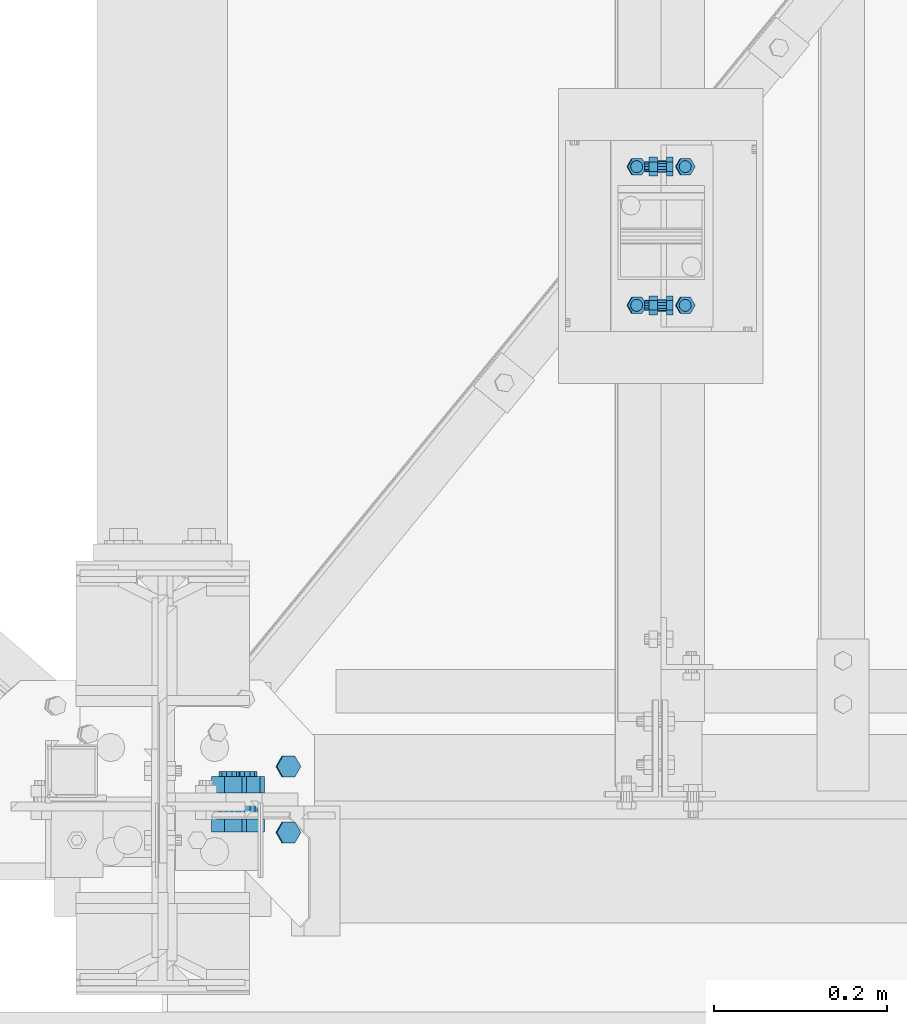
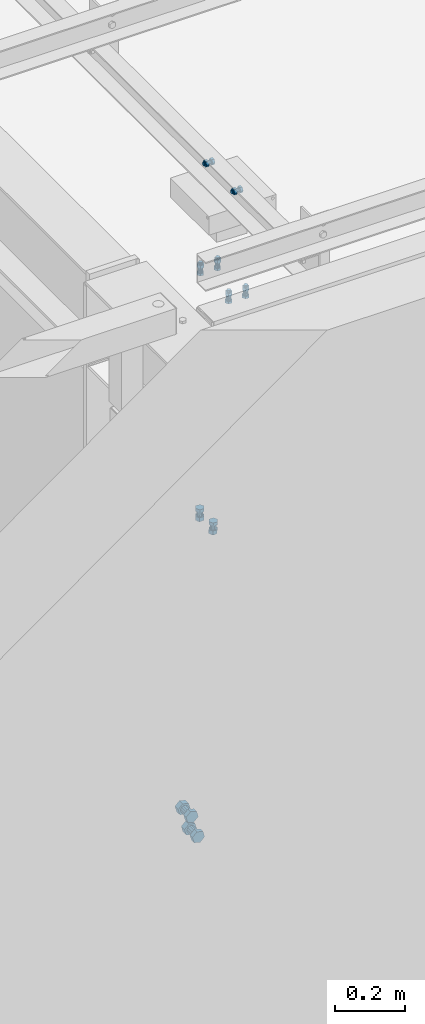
# One storey, part 300 of 3134: 5 mechanical fasteners, 4 elements without a shape of their own.
"""IFC2X3 building model written with IfcOpenShell, lengths in millimetres."""

from ifc_helpers import new_model, si_unit, frame, origin_with_axes, place, context, subcontext, project, spatial, faceted_brep, source, transform, mapped, material, type_object, element, aggregate, save


model = new_model("IFC2X3")

# Units and contexts
model_context = context("Model", 3, precision=1e-05, world=origin_with_axes())
body_context = subcontext(model_context, "Body", "Model", "MODEL_VIEW")
ifc_project = project(units=[si_unit("LENGTHUNIT", "METRE", prefix="MILLI"), si_unit("AREAUNIT", "SQUARE_METRE"), si_unit("VOLUMEUNIT", "CUBIC_METRE"), si_unit("MASSUNIT", "GRAM", prefix="KILO"), si_unit("TIMEUNIT", "SECOND"), si_unit("PLANEANGLEUNIT", "RADIAN"), si_unit("SOLIDANGLEUNIT", "STERADIAN"), si_unit("THERMODYNAMICTEMPERATUREUNIT", "DEGREE_CELSIUS"), si_unit("LUMINOUSINTENSITYUNIT", "LUMEN")], contexts=[model_context])

# Site, building, storey
site_placement = place(None, origin_with_axes())
site = spatial("IfcSite", under=ifc_project, at=site_placement, CompositionType="ELEMENT")
building_placement = place(site_placement, origin_with_axes())
building = spatial("IfcBuilding", under=site, at=building_placement, Name="Undefined", CompositionType="ELEMENT")
storey_placement = place(building_placement, origin_with_axes())
storey = spatial("IfcBuildingStorey", under=building, at=storey_placement, Name="Undefined", CompositionType="ELEMENT", Elevation=0.0)

# Assembly, mechanical fastener
assembly_1_placement = place(storey_placement, origin_with_axes())
assembly_1 = element("IfcElementAssembly", 1, at=assembly_1_placement, inside=storey, AssemblyPlace="NOTDEFINED", PredefinedType="RIGID_FRAME")
ifc_material = material(Name="8.8")
mechanical_fastener_type = type_object("IfcMechanicalFastenerType", Name="Bolt assembly")
shared_shape_1 = source(origin_with_axes(), body_context, "Body", "Brep", [
    faceted_brep([(10.9696551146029, -14.0, 0.0), (5.48482755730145, -14.0, 9.5), (-5.48482755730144, -14.0, 9.5), (-10.9696551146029, -14.0, 1.34339530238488e-15), (-5.48482755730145, -14.0, -9.5), (5.48482755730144, -14.0, -9.50000000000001), (5.48482755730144, -6.0, -9.50000000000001), (-5.48482755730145, -6.0, -9.5), (-10.9696551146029, -6.0, 1.34339530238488e-15), (-5.48482755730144, -6.0, 9.5), (5.48482755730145, -6.0, 9.5), (10.9696551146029, -6.0, 0.0), (6.0, -6.0, 0.0), (5.19615242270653, -6.0, 3.00000000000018), (2.99999999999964, -6.0, 5.19615242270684), (-6.21801588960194e-13, -6.0, 6.0), (-3.00000000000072, -6.0, 5.19615242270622), (-5.19615242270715, -6.0, 2.9999999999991), (-6.0, -6.0, -1.24360317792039e-12), (-5.19615242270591, -6.0, -3.00000000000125), (-2.99999999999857, -6.0, -5.19615242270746), (1.85874342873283e-12, -6.0, -6.0), (3.00000000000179, -6.0, -5.1961524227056), (5.19615242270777, -6.0, -2.99999999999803), (5.19615242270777, 19.0, -2.99999999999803), (3.00000000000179, 19.0, -5.1961524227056), (1.85874342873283e-12, 19.0, -6.0), (-2.99999999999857, 19.0, -5.19615242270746), (-5.19615242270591, 19.0, -3.00000000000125), (-6.0, 19.0, -1.24360317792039e-12), (-5.19615242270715, 19.0, 2.9999999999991), (-3.00000000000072, 19.0, 5.19615242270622), (-6.21801588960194e-13, 19.0, 6.0), (2.99999999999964, 19.0, 5.19615242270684), (5.19615242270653, 19.0, 3.00000000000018), (6.0, 19.0, 0.0), (10.9696551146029, 4.00000000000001, 0.0), (5.48482755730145, 4.00000000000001, 9.5), (-5.48482755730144, 4.00000000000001, 9.5), (-10.9696551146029, 4.00000000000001, 1.34339530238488e-15), (-5.48482755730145, 4.00000000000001, -9.5), (5.48482755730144, 4.00000000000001, -9.50000000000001), (5.48482755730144, 14.0, -9.50000000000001), (-5.48482755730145, 14.0, -9.5), (-10.9696551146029, 14.0, 1.34339530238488e-15), (-5.48482755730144, 14.0, 9.5), (5.48482755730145, 14.0, 9.5), (10.9696551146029, 14.0, 0.0)], [[[0, 1, 2, 3, 4, 5]], [[6, 7, 8, 9, 10, 11]], [[0, 11, 10, 1]], [[1, 10, 9, 2]], [[2, 9, 8, 3]], [[3, 8, 7, 4]], [[4, 7, 6, 5]], [[5, 6, 11, 0]], [[12, 13, 14, 15, 16, 17, 18, 19, 20, 21, 22, 23]], [[24, 25, 26, 27, 28, 29, 30, 31, 32, 33, 34, 35]], [[12, 35, 34, 13]], [[13, 34, 33, 14]], [[14, 33, 32, 15]], [[15, 32, 31, 16]], [[16, 31, 30, 17]], [[17, 30, 29, 18]], [[18, 29, 28, 19]], [[19, 28, 27, 20]], [[20, 27, 26, 21]], [[21, 26, 25, 22]], [[22, 25, 24, 23]], [[23, 24, 35, 12]], [[36, 37, 38, 39, 40, 41]], [[42, 43, 44, 45, 46, 47]], [[36, 47, 46, 37]], [[37, 46, 45, 38]], [[38, 45, 44, 39]], [[39, 44, 43, 40]], [[40, 43, 42, 41]], [[41, 42, 47, 36]]]),
    faceted_brep([(7.0, -0.1, 0.0), (6.06217782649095, -0.1, 3.50000000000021), (3.49999999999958, -0.1, 6.06217782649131), (-7.25435187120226e-13, -0.1, 7.0), (-3.50000000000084, -0.1, 6.06217782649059), (-6.06217782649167, -0.1, 3.49999999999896), (-7.0, -0.1, -1.45087037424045e-12), (-6.06217782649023, -0.1, -3.50000000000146), (-3.49999999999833, -0.1, -6.06217782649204), (2.1685340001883e-12, -0.1, -7.0), (3.50000000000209, -0.1, -6.06217782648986), (6.0621778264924, -0.1, -3.4999999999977), (6.0621778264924, 4.00000000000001, -3.4999999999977), (3.50000000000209, 4.00000000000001, -6.06217782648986), (2.1685340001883e-12, 4.00000000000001, -7.0), (-3.49999999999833, 4.00000000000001, -6.06217782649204), (-6.06217782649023, 4.00000000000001, -3.50000000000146), (-7.0, 4.00000000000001, -1.45087037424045e-12), (-6.06217782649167, 4.00000000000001, 3.49999999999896), (-3.50000000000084, 4.00000000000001, 6.06217782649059), (-7.25435187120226e-13, 4.00000000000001, 7.0), (3.49999999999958, 4.00000000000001, 6.06217782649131), (6.06217782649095, 4.00000000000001, 3.50000000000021), (7.0, 4.00000000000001, 0.0), (7.0, -5.9, 0.0), (6.06217782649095, -5.9, 3.50000000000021), (3.49999999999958, -5.9, 6.06217782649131), (-7.25435187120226e-13, -5.9, 7.0), (-3.50000000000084, -5.9, 6.06217782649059), (-6.06217782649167, -5.9, 3.49999999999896), (-7.0, -5.9, -1.45087037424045e-12), (-6.06217782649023, -5.9, -3.50000000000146), (-3.49999999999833, -5.9, -6.06217782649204), (2.1685340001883e-12, -5.9, -7.0), (3.50000000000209, -5.9, -6.06217782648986), (6.0621778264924, -5.9, -3.4999999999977), (6.0621778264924, 0.0999999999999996, -3.4999999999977), (3.50000000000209, 0.0999999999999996, -6.06217782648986), (2.1685340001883e-12, 0.0999999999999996, -7.0), (-3.49999999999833, 0.0999999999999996, -6.06217782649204), (-6.06217782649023, 0.0999999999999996, -3.50000000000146), (-7.0, 0.0999999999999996, -1.45087037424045e-12), (-6.06217782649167, 0.0999999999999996, 3.49999999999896), (-3.50000000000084, 0.0999999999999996, 6.06217782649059), (-7.25435187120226e-13, 0.0999999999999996, 7.0), (3.49999999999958, 0.0999999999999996, 6.06217782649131), (6.06217782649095, 0.0999999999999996, 3.50000000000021), (7.0, 0.0999999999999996, 0.0)], [[[0, 1, 2, 3, 4, 5, 6, 7, 8, 9, 10, 11]], [[12, 13, 14, 15, 16, 17, 18, 19, 20, 21, 22, 23]], [[0, 23, 22, 1]], [[1, 22, 21, 2]], [[2, 21, 20, 3]], [[3, 20, 19, 4]], [[4, 19, 18, 5]], [[5, 18, 17, 6]], [[6, 17, 16, 7]], [[7, 16, 15, 8]], [[8, 15, 14, 9]], [[9, 14, 13, 10]], [[10, 13, 12, 11]], [[11, 12, 23, 0]], [[24, 25, 26, 27, 28, 29, 30, 31, 32, 33, 34, 35]], [[36, 37, 38, 39, 40, 41, 42, 43, 44, 45, 46, 47]], [[24, 47, 46, 25]], [[25, 46, 45, 26]], [[26, 45, 44, 27]], [[27, 44, 43, 28]], [[28, 43, 42, 29]], [[29, 42, 41, 30]], [[30, 41, 40, 31]], [[31, 40, 39, 32]], [[32, 39, 38, 33]], [[33, 38, 37, 34]], [[34, 37, 36, 35]], [[35, 36, 47, 24]]]),
])
mechanical_fastener_1_placement = place(assembly_1_placement, frame((68125.0, 570.0, 5785.0), z_axis=(0.0, 0.0, 1.0), x_axis=(0.0, 1.0, 0.0)))
mechanical_fastener_1 = element("IfcMechanicalFastener", 2, at=mechanical_fastener_1_placement, type_object=mechanical_fastener_type, material=ifc_material, Name="Bolt assembly", NominalDiameter=12.0, NominalLength=25.0, context=body_context, shape_type="MappedRepresentation", body=[
    mapped(shared_shape_1, transform((0.0, 0.0, 0.0))),
    mapped(shared_shape_1, transform((160.0, 0.0, 0.0))),
])
aggregate(assembly_1, [mechanical_fastener_1])

assembly_2_placement = place(storey_placement, origin_with_axes())
assembly_2 = element("IfcElementAssembly", 3, at=assembly_2_placement, inside=storey, Name="IPE500", AssemblyPlace="NOTDEFINED", PredefinedType="RIGID_FRAME")
shared_shape_2 = source(origin_with_axes(), body_context, "Body", "Brep", [
    faceted_brep([(13.856406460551, -23.1999997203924, 0.0), (6.92820323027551, -23.1999997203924, 12.0), (-6.92820323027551, -23.1999997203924, 12.0), (-13.856406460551, -23.1999997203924, 1.69692038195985e-15), (-6.92820323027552, -23.1999997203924, -12.0), (6.9282032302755, -23.1999997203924, -12.0), (6.9282032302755, -13.1999997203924, -12.0), (-6.92820323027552, -13.1999997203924, -12.0), (-13.856406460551, -13.1999997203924, 1.69692038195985e-15), (-6.92820323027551, -13.1999997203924, 12.0), (6.92820323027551, -13.1999997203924, 12.0), (13.856406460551, -13.1999997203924, 0.0), (8.0, -13.1999997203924, 0.0), (6.92820323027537, -13.1999997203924, 4.00000000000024), (3.99999999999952, -13.1999997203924, 6.92820323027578), (-8.29068785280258e-13, -13.1999997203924, 8.0), (-4.00000000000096, -13.1999997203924, 6.92820323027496), (-6.9282032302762, -13.1999997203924, 3.99999999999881), (-8.0, -13.1999997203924, -1.65813757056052e-12), (-6.92820323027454, -13.1999997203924, -4.00000000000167), (-3.99999999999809, -13.1999997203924, -6.92820323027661), (2.47832457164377e-12, -13.1999997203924, -8.0), (4.00000000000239, -13.1999997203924, -6.92820323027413), (6.92820323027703, -13.1999997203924, -3.99999999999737), (6.92820323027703, 21.8000002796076, -3.99999999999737), (4.00000000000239, 21.8000002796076, -6.92820323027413), (2.47832457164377e-12, 21.8000002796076, -8.0), (-3.99999999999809, 21.8000002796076, -6.92820323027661), (-6.92820323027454, 21.8000002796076, -4.00000000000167), (-8.0, 21.8000002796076, -1.65813757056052e-12), (-6.9282032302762, 21.8000002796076, 3.99999999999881), (-4.00000000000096, 21.8000002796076, 6.92820323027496), (-8.29068785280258e-13, 21.8000002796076, 8.0), (3.99999999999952, 21.8000002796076, 6.92820323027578), (6.92820323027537, 21.8000002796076, 4.00000000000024), (8.0, 21.8000002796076, 0.0), (13.856406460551, 3.99999999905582, 0.0), (6.92820323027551, 3.99999999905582, 12.0), (-6.92820323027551, 3.99999999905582, 12.0), (-13.856406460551, 3.99999999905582, 1.69692038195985e-15), (-6.92820323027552, 3.99999999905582, -12.0), (6.9282032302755, 3.99999999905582, -12.0), (6.9282032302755, 16.9999999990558, -12.0), (-6.92820323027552, 16.9999999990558, -12.0), (-13.856406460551, 16.9999999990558, 1.69692038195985e-15), (-6.92820323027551, 16.9999999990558, 12.0), (6.92820323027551, 16.9999999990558, 12.0), (13.856406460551, 16.9999999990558, 0.0)], [[[0, 1, 2, 3, 4, 5]], [[6, 7, 8, 9, 10, 11]], [[0, 11, 10, 1]], [[1, 10, 9, 2]], [[2, 9, 8, 3]], [[3, 8, 7, 4]], [[4, 7, 6, 5]], [[5, 6, 11, 0]], [[12, 13, 14, 15, 16, 17, 18, 19, 20, 21, 22, 23]], [[24, 25, 26, 27, 28, 29, 30, 31, 32, 33, 34, 35]], [[12, 35, 34, 13]], [[13, 34, 33, 14]], [[14, 33, 32, 15]], [[15, 32, 31, 16]], [[16, 31, 30, 17]], [[17, 30, 29, 18]], [[18, 29, 28, 19]], [[19, 28, 27, 20]], [[20, 27, 26, 21]], [[21, 26, 25, 22]], [[22, 25, 24, 23]], [[23, 24, 35, 12]], [[36, 37, 38, 39, 40, 41]], [[42, 43, 44, 45, 46, 47]], [[36, 47, 46, 37]], [[37, 46, 45, 38]], [[38, 45, 44, 39]], [[39, 44, 43, 40]], [[40, 43, 42, 41]], [[41, 42, 47, 36]]]),
    faceted_brep([(9.0, -13.0999997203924, 0.0), (7.79422863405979, -13.0999997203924, 4.50000000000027), (4.49999999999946, -13.0999997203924, 7.79422863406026), (-9.3270238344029e-13, -13.0999997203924, 9.0), (-4.50000000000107, -13.0999997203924, 7.79422863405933), (-7.79422863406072, -13.0999997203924, 4.49999999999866), (-9.0, -13.0999997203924, -1.86540476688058e-12), (-7.79422863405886, -13.0999997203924, -4.50000000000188), (-4.49999999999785, -13.0999997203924, -7.79422863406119), (2.78811514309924e-12, -13.0999997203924, -9.0), (4.50000000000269, -13.0999997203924, -7.7942286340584), (7.79422863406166, -13.0999997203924, -4.49999999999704), (7.79422863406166, -3.9, -4.49999999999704), (4.50000000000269, -3.9, -7.7942286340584), (2.78811514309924e-12, -3.9, -9.0), (-4.49999999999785, -3.9, -7.79422863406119), (-7.79422863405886, -3.9, -4.50000000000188), (-9.0, -3.9, -1.86540476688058e-12), (-7.79422863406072, -3.9, 4.49999999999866), (-4.50000000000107, -3.9, 7.79422863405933), (-9.3270238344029e-13, -3.9, 9.0), (4.49999999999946, -3.9, 7.79422863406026), (7.79422863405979, -3.9, 4.50000000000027), (9.0, -3.9, 0.0), (9.0, -4.10000000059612, 0.0), (7.79422863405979, -4.10000000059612, 4.50000000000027), (4.49999999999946, -4.10000000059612, 7.79422863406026), (-9.3270238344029e-13, -4.10000000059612, 9.0), (-4.50000000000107, -4.10000000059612, 7.79422863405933), (-7.79422863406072, -4.10000000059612, 4.49999999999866), (-9.0, -4.10000000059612, -1.86540476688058e-12), (-7.79422863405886, -4.10000000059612, -4.50000000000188), (-4.49999999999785, -4.10000000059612, -7.79422863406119), (2.78811514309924e-12, -4.10000000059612, -9.0), (4.50000000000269, -4.10000000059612, -7.7942286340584), (7.79422863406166, -4.10000000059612, -4.49999999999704), (7.79422863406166, 4.00000375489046, -4.49999999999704), (4.50000000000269, 4.00000375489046, -7.7942286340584), (2.78811514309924e-12, 4.00000375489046, -9.0), (-4.49999999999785, 4.00000375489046, -7.79422863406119), (-7.79422863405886, 4.00000375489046, -4.50000000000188), (-9.0, 4.00000375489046, -1.86540476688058e-12), (-7.79422863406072, 4.00000375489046, 4.49999999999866), (-4.50000000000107, 4.00000375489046, 7.79422863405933), (-9.3270238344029e-13, 4.00000375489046, 9.0), (4.49999999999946, 4.00000375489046, 7.79422863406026), (7.79422863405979, 4.00000375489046, 4.50000000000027), (9.0, 4.00000375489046, 0.0)], [[[0, 1, 2, 3, 4, 5, 6, 7, 8, 9, 10, 11]], [[12, 13, 14, 15, 16, 17, 18, 19, 20, 21, 22, 23]], [[0, 23, 22, 1]], [[1, 22, 21, 2]], [[2, 21, 20, 3]], [[3, 20, 19, 4]], [[4, 19, 18, 5]], [[5, 18, 17, 6]], [[6, 17, 16, 7]], [[7, 16, 15, 8]], [[8, 15, 14, 9]], [[9, 14, 13, 10]], [[10, 13, 12, 11]], [[11, 12, 23, 0]], [[24, 25, 26, 27, 28, 29, 30, 31, 32, 33, 34, 35]], [[36, 37, 38, 39, 40, 41, 42, 43, 44, 45, 46, 47]], [[24, 47, 46, 25]], [[25, 46, 45, 26]], [[26, 45, 44, 27]], [[27, 44, 43, 28]], [[28, 43, 42, 29]], [[29, 42, 41, 30]], [[30, 41, 40, 31]], [[31, 40, 39, 32]], [[32, 39, 38, 33]], [[33, 38, 37, 34]], [[34, 37, 36, 35]], [[35, 36, 47, 24]]]),
])
mechanical_fastener_2_placement = place(assembly_2_placement, frame((67694.9125978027, 0.0, 5134.36311577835), z_axis=(0.0, 1.0, 0.0), x_axis=(0.999519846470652, 0.0, -0.0309851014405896)))
mechanical_fastener_2 = element("IfcMechanicalFastener", 4, at=mechanical_fastener_2_placement, type_object=mechanical_fastener_type, material=ifc_material, Name="Bolt assembly", NominalDiameter=16.0, NominalLength=35.0, context=body_context, shape_type="MappedRepresentation", body=[
    mapped(shared_shape_2, transform((0.0, 0.0, -38.0))),
    mapped(shared_shape_2, transform((0.0, 0.0, 38.0))),
])

assembly_3_placement = place(storey_placement, origin_with_axes())
assembly_3 = element("IfcElementAssembly", 5, at=assembly_3_placement, inside=storey, AssemblyPlace="NOTDEFINED", PredefinedType="RIGID_FRAME")
shared_shape_3 = source(origin_with_axes(), body_context, "Body", "Brep", [
    faceted_brep([(7.0, 13.0000253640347, 0.0), (6.06217782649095, 13.0000253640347, 3.50000000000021), (3.49999999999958, 13.0000253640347, 6.06217782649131), (-7.25435187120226e-13, 13.0000253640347, 7.0), (-3.50000000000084, 13.0000253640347, 6.06217782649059), (-6.06217782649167, 13.0000253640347, 3.49999999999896), (-7.0, 13.0000253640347, -1.45087037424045e-12), (-6.06217782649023, 13.0000253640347, -3.50000000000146), (-3.49999999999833, 13.0000253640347, -6.06217782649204), (2.1685340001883e-12, 13.0000253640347, -7.0), (3.50000000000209, 13.0000253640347, -6.06217782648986), (6.0621778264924, 13.0000253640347, -3.4999999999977), (6.0621778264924, 15.0999999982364, -3.4999999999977), (3.50000000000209, 15.0999999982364, -6.06217782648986), (2.1685340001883e-12, 15.0999999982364, -7.0), (-3.49999999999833, 15.0999999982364, -6.06217782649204), (-6.06217782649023, 15.0999999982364, -3.50000000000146), (-7.0, 15.0999999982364, -1.45087037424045e-12), (-6.06217782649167, 15.0999999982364, 3.49999999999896), (-3.50000000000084, 15.0999999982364, 6.06217782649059), (-7.25435187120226e-13, 15.0999999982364, 7.0), (3.49999999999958, 15.0999999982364, 6.06217782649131), (6.06217782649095, 15.0999999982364, 3.50000000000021), (7.0, 15.0999999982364, 0.0)], [[[0, 1, 2, 3, 4, 5, 6, 7, 8, 9, 10, 11]], [[12, 13, 14, 15, 16, 17, 18, 19, 20, 21, 22, 23]], [[0, 23, 22, 1]], [[1, 22, 21, 2]], [[2, 21, 20, 3]], [[3, 20, 19, 4]], [[4, 19, 18, 5]], [[5, 18, 17, 6]], [[6, 17, 16, 7]], [[7, 16, 15, 8]], [[8, 15, 14, 9]], [[9, 14, 13, 10]], [[10, 13, 12, 11]], [[11, 12, 23, 0]]]),
])
mechanical_fastener_3_placement = place(assembly_3_placement, frame((68096.3602034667, 649.998364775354, 5410.04493090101), z_axis=(0.0, -1.0, 0.0), x_axis=(0.999519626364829, 0.0, -0.030992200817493)))
mechanical_fastener_3 = element("IfcMechanicalFastener", 6, at=mechanical_fastener_3_placement, type_object=mechanical_fastener_type, material=ifc_material, Name="Bolt assembly", NominalDiameter=12.0, NominalLength=2.0, context=body_context, shape_type="MappedRepresentation", body=[
    mapped(shared_shape_3, transform((0.0, -5.32963895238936e-10, -79.9999999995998))),
    mapped(shared_shape_3, transform((55.9999999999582, 4.54747350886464e-13, -80.0))),
    mapped(shared_shape_3, transform((0.0, 5.3114490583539e-10, 79.9999999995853))),
    mapped(shared_shape_3, transform((55.9999999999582, 4.54747350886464e-13, 80.0))),
])
aggregate(assembly_3, [mechanical_fastener_3])

assembly_4_placement = place(storey_placement, origin_with_axes())
assembly_4 = element("IfcElementAssembly", 7, at=assembly_4_placement, inside=storey, Name="HEA100", AssemblyPlace="NOTDEFINED", PredefinedType="RIGID_FRAME")
shared_shape_4 = source(origin_with_axes(), body_context, "Body", "Brep", [
    faceted_brep([(10.9696551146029, -0.987246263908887, 0.0), (5.48482755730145, -0.987246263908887, 9.5), (-5.48482755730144, -0.987246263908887, 9.5), (-10.9696551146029, -0.987246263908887, 1.34339530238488e-15), (-5.48482755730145, -0.987246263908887, -9.5), (5.48482755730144, -0.987246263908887, -9.50000000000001), (5.48482755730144, 7.01275373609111, -9.50000000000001), (-5.48482755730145, 7.01275373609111, -9.5), (-10.9696551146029, 7.01275373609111, 1.34339530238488e-15), (-5.48482755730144, 7.01275373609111, 9.5), (5.48482755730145, 7.01275373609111, 9.5), (10.9696551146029, 7.01275373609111, 0.0), (6.0, 7.01275373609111, 0.0), (5.19615242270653, 7.01275373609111, 3.00000000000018), (2.99999999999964, 7.01275373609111, 5.19615242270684), (-6.21801588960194e-13, 7.01275373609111, 6.0), (-3.00000000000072, 7.01275373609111, 5.19615242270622), (-5.19615242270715, 7.01275373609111, 2.9999999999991), (-6.0, 7.01275373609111, -1.24360317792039e-12), (-5.19615242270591, 7.01275373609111, -3.00000000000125), (-2.99999999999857, 7.01275373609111, -5.19615242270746), (1.85874342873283e-12, 7.01275373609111, -6.0), (3.00000000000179, 7.01275373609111, -5.1961524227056), (5.19615242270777, 7.01275373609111, -2.99999999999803), (5.19615242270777, 42.0127537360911, -2.99999999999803), (3.00000000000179, 42.0127537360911, -5.1961524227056), (1.85874342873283e-12, 42.0127537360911, -6.0), (-2.99999999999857, 42.0127537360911, -5.19615242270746), (-5.19615242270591, 42.0127537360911, -3.00000000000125), (-6.0, 42.0127537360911, -1.24360317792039e-12), (-5.19615242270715, 42.0127537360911, 2.9999999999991), (-3.00000000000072, 42.0127537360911, 5.19615242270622), (-6.21801588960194e-13, 42.0127537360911, 6.0), (2.99999999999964, 42.0127537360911, 5.19615242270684), (5.19615242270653, 42.0127537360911, 3.00000000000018), (6.0, 42.0127537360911, 0.0), (10.9696551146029, 25.0147990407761, 0.0), (5.48482755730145, 25.0147990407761, 9.5), (-5.48482755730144, 25.0147990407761, 9.5), (-10.9696551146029, 25.0147990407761, 1.34339530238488e-15), (-5.48482755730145, 25.0147990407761, -9.5), (5.48482755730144, 25.0147990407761, -9.50000000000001), (5.48482755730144, 35.0147990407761, -9.50000000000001), (-5.48482755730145, 35.0147990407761, -9.5), (-10.9696551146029, 35.0147990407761, 1.34339530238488e-15), (-5.48482755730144, 35.0147990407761, 9.5), (5.48482755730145, 35.0147990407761, 9.5), (10.9696551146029, 35.0147990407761, 0.0)], [[[0, 1, 2, 3, 4, 5]], [[6, 7, 8, 9, 10, 11]], [[0, 11, 10, 1]], [[1, 10, 9, 2]], [[2, 9, 8, 3]], [[3, 8, 7, 4]], [[4, 7, 6, 5]], [[5, 6, 11, 0]], [[12, 13, 14, 15, 16, 17, 18, 19, 20, 21, 22, 23]], [[24, 25, 26, 27, 28, 29, 30, 31, 32, 33, 34, 35]], [[12, 35, 34, 13]], [[13, 34, 33, 14]], [[14, 33, 32, 15]], [[15, 32, 31, 16]], [[16, 31, 30, 17]], [[17, 30, 29, 18]], [[18, 29, 28, 19]], [[19, 28, 27, 20]], [[20, 27, 26, 21]], [[21, 26, 25, 22]], [[22, 25, 24, 23]], [[23, 24, 35, 12]], [[36, 37, 38, 39, 40, 41]], [[42, 43, 44, 45, 46, 47]], [[36, 47, 46, 37]], [[37, 46, 45, 38]], [[38, 45, 44, 39]], [[39, 44, 43, 40]], [[40, 43, 42, 41]], [[41, 42, 47, 36]]]),
    faceted_brep([(7.0, 16.9147990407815, 0.0), (6.06217782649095, 16.9147990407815, 3.50000000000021), (3.49999999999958, 16.9147990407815, 6.06217782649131), (-7.25435187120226e-13, 16.9147990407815, 7.0), (-3.50000000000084, 16.9147990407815, 6.06217782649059), (-6.06217782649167, 16.9147990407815, 3.49999999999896), (-7.0, 16.9147990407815, -1.45087037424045e-12), (-6.06217782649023, 16.9147990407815, -3.50000000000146), (-3.49999999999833, 16.9147990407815, -6.06217782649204), (2.1685340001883e-12, 16.9147990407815, -7.0), (3.50000000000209, 16.9147990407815, -6.06217782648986), (6.0621778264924, 16.9147990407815, -3.4999999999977), (6.0621778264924, 25.0147990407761, -3.4999999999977), (3.50000000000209, 25.0147990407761, -6.06217782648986), (2.1685340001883e-12, 25.0147990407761, -7.0), (-3.49999999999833, 25.0147990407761, -6.06217782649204), (-6.06217782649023, 25.0147990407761, -3.50000000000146), (-7.0, 25.0147990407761, -1.45087037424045e-12), (-6.06217782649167, 25.0147990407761, 3.49999999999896), (-3.50000000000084, 25.0147990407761, 6.06217782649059), (-7.25435187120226e-13, 25.0147990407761, 7.0), (3.49999999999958, 25.0147990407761, 6.06217782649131), (6.06217782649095, 25.0147990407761, 3.50000000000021), (7.0, 25.0147990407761, 0.0), (7.0, 7.11275373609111, 0.0), (6.06217782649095, 7.11275373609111, 3.50000000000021), (3.49999999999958, 7.11275373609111, 6.06217782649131), (-7.25435187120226e-13, 7.11275373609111, 7.0), (-3.50000000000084, 7.11275373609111, 6.06217782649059), (-6.06217782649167, 7.11275373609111, 3.49999999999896), (-7.0, 7.11275373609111, -1.45087037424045e-12), (-6.06217782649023, 7.11275373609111, -3.50000000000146), (-3.49999999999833, 7.11275373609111, -6.06217782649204), (2.1685340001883e-12, 7.11275373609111, -7.0), (3.50000000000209, 7.11275373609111, -6.06217782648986), (6.0621778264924, 7.11275373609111, -3.4999999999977), (6.0621778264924, 15.1127778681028, -3.4999999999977), (3.50000000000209, 15.1127778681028, -6.06217782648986), (2.1685340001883e-12, 15.1127778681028, -7.0), (-3.49999999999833, 15.1127778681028, -6.06217782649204), (-6.06217782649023, 15.1127778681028, -3.50000000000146), (-7.0, 15.1127778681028, -1.45087037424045e-12), (-6.06217782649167, 15.1127778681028, 3.49999999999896), (-3.50000000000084, 15.1127778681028, 6.06217782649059), (-7.25435187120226e-13, 15.1127778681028, 7.0), (3.49999999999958, 15.1127778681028, 6.06217782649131), (6.06217782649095, 15.1127778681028, 3.50000000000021), (7.0, 15.1127778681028, 0.0)], [[[0, 1, 2, 3, 4, 5, 6, 7, 8, 9, 10, 11]], [[12, 13, 14, 15, 16, 17, 18, 19, 20, 21, 22, 23]], [[0, 23, 22, 1]], [[1, 22, 21, 2]], [[2, 21, 20, 3]], [[3, 20, 19, 4]], [[4, 19, 18, 5]], [[5, 18, 17, 6]], [[6, 17, 16, 7]], [[7, 16, 15, 8]], [[8, 15, 14, 9]], [[9, 14, 13, 10]], [[10, 13, 12, 11]], [[11, 12, 23, 0]], [[24, 25, 26, 27, 28, 29, 30, 31, 32, 33, 34, 35]], [[36, 37, 38, 39, 40, 41, 42, 43, 44, 45, 46, 47]], [[24, 47, 46, 25]], [[25, 46, 45, 26]], [[26, 45, 44, 27]], [[27, 44, 43, 28]], [[28, 43, 42, 29]], [[29, 42, 41, 30]], [[30, 41, 40, 31]], [[31, 40, 39, 32]], [[32, 39, 38, 33]], [[33, 38, 37, 34]], [[34, 37, 36, 35]], [[35, 36, 47, 24]]]),
])
mechanical_fastener_4_placement = place(assembly_4_placement, frame((68096.3002034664, 649.998364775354, 5408.04493090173), z_axis=(0.0, -1.0, 0.0), x_axis=(0.999519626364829, 0.0, -0.030992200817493)))
mechanical_fastener_4 = element("IfcMechanicalFastener", 8, at=mechanical_fastener_4_placement, type_object=mechanical_fastener_type, material=ifc_material, Name="Bolt assembly", NominalDiameter=12.0, NominalLength=35.0, context=body_context, shape_type="MappedRepresentation", body=[
    mapped(shared_shape_4, transform((0.0, -5.32963895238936e-10, -79.9999999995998))),
    mapped(shared_shape_4, transform((55.9999999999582, 4.54747350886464e-13, -80.0))),
    mapped(shared_shape_4, transform((0.0, 5.3114490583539e-10, 79.9999999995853))),
    mapped(shared_shape_4, transform((55.9999999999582, 4.54747350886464e-13, 80.0))),
])
aggregate(assembly_4, [mechanical_fastener_4])

# Mechanical fastener
shared_shape_5 = source(origin_with_axes(), body_context, "Body", "Brep", [
    faceted_brep([(20.7846096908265, -37.5, 0.0), (10.3923048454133, -37.5, 18.0), (-10.3923048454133, -37.5, 18.0), (-20.7846096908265, -37.5, 2.54538057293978e-15), (-10.3923048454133, -37.5, -18.0), (10.3923048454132, -37.5, -18.0), (10.3923048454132, -22.5, -18.0), (-10.3923048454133, -22.5, -18.0), (-20.7846096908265, -22.5, 2.54538057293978e-15), (-10.3923048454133, -22.5, 18.0), (10.3923048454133, -22.5, 18.0), (20.7846096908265, -22.5, 0.0), (12.0, -22.5, 0.0), (10.3923048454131, -22.5, 6.00000000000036), (5.99999999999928, -22.5, 10.3923048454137), (-1.24360317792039e-12, -22.5, 12.0), (-6.00000000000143, -22.5, 10.3923048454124), (-10.3923048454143, -22.5, 5.99999999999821), (-12.0, -22.5, -2.48720635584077e-12), (-10.3923048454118, -22.5, -6.00000000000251), (-5.99999999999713, -22.5, -10.3923048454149), (3.71748685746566e-12, -22.5, -12.0), (6.00000000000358, -22.5, -10.3923048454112), (10.3923048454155, -22.5, -5.99999999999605), (10.3923048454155, 32.5, -5.99999999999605), (6.00000000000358, 32.5, -10.3923048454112), (3.71748685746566e-12, 32.5, -12.0), (-5.99999999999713, 32.5, -10.3923048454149), (-10.3923048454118, 32.5, -6.00000000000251), (-12.0, 32.5, -2.48720635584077e-12), (-10.3923048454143, 32.5, 5.99999999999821), (-6.00000000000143, 32.5, 10.3923048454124), (-1.24360317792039e-12, 32.5, 12.0), (5.99999999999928, 32.5, 10.3923048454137), (10.3923048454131, 32.5, 6.00000000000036), (12.0, 32.5, 0.0), (20.7846096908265, 7.5, 0.0), (10.3923048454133, 7.5, 18.0), (-10.3923048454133, 7.5, 18.0), (-20.7846096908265, 7.5, 2.54538057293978e-15), (-10.3923048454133, 7.5, -18.0), (10.3923048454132, 7.5, -18.0), (10.3923048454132, 26.5, -18.0), (-10.3923048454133, 26.5, -18.0), (-20.7846096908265, 26.5, 2.54538057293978e-15), (-10.3923048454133, 26.5, 18.0), (10.3923048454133, 26.5, 18.0), (20.7846096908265, 26.5, 0.0)], [[[0, 1, 2, 3, 4, 5]], [[6, 7, 8, 9, 10, 11]], [[0, 11, 10, 1]], [[1, 10, 9, 2]], [[2, 9, 8, 3]], [[3, 8, 7, 4]], [[4, 7, 6, 5]], [[5, 6, 11, 0]], [[12, 13, 14, 15, 16, 17, 18, 19, 20, 21, 22, 23]], [[24, 25, 26, 27, 28, 29, 30, 31, 32, 33, 34, 35]], [[12, 35, 34, 13]], [[13, 34, 33, 14]], [[14, 33, 32, 15]], [[15, 32, 31, 16]], [[16, 31, 30, 17]], [[17, 30, 29, 18]], [[18, 29, 28, 19]], [[19, 28, 27, 20]], [[20, 27, 26, 21]], [[21, 26, 25, 22]], [[22, 25, 24, 23]], [[23, 24, 35, 12]], [[36, 37, 38, 39, 40, 41]], [[42, 43, 44, 45, 46, 47]], [[36, 47, 46, 37]], [[37, 46, 45, 38]], [[38, 45, 44, 39]], [[39, 44, 43, 40]], [[40, 43, 42, 41]], [[41, 42, 47, 36]]]),
    faceted_brep([(13.0, -22.4, 0.0), (11.2583302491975, -22.4, 6.50000000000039), (6.49999999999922, -22.4, 11.2583302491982), (-1.34723677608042e-12, -22.4, 13.0), (-6.50000000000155, -22.4, 11.2583302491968), (-11.2583302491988, -22.4, 6.49999999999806), (-13.0, -22.4, -2.69447355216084e-12), (-11.2583302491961, -22.4, -6.50000000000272), (-6.4999999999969, -22.4, -11.2583302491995), (4.02727742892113e-12, -22.4, -13.0), (6.50000000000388, -22.4, -11.2583302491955), (11.2583302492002, -22.4, -6.49999999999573), (11.2583302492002, -7.40000000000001, -6.49999999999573), (6.50000000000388, -7.40000000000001, -11.2583302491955), (4.02727742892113e-12, -7.40000000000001, -13.0), (-6.4999999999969, -7.40000000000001, -11.2583302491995), (-11.2583302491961, -7.40000000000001, -6.50000000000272), (-13.0, -7.40000000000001, -2.69447355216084e-12), (-11.2583302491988, -7.40000000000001, 6.49999999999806), (-6.50000000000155, -7.40000000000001, 11.2583302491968), (-1.34723677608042e-12, -7.40000000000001, 13.0), (6.49999999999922, -7.40000000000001, 11.2583302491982), (11.2583302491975, -7.40000000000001, 6.50000000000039), (13.0, -7.40000000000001, 0.0), (13.0, -7.6, 0.0), (11.2583302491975, -7.6, 6.50000000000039), (6.49999999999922, -7.6, 11.2583302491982), (-1.34723677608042e-12, -7.6, 13.0), (-6.50000000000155, -7.6, 11.2583302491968), (-11.2583302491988, -7.6, 6.49999999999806), (-13.0, -7.6, -2.69447355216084e-12), (-11.2583302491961, -7.6, -6.50000000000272), (-6.4999999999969, -7.6, -11.2583302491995), (4.02727742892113e-12, -7.6, -13.0), (6.50000000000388, -7.6, -11.2583302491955), (11.2583302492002, -7.6, -6.49999999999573), (11.2583302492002, 7.5, -6.49999999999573), (6.50000000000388, 7.5, -11.2583302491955), (4.02727742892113e-12, 7.5, -13.0), (-6.4999999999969, 7.5, -11.2583302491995), (-11.2583302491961, 7.5, -6.50000000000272), (-13.0, 7.5, -2.69447355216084e-12), (-11.2583302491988, 7.5, 6.49999999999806), (-6.50000000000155, 7.5, 11.2583302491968), (-1.34723677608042e-12, 7.5, 13.0), (6.49999999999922, 7.5, 11.2583302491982), (11.2583302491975, 7.5, 6.50000000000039), (13.0, 7.5, 0.0)], [[[0, 1, 2, 3, 4, 5, 6, 7, 8, 9, 10, 11]], [[12, 13, 14, 15, 16, 17, 18, 19, 20, 21, 22, 23]], [[0, 23, 22, 1]], [[1, 22, 21, 2]], [[2, 21, 20, 3]], [[3, 20, 19, 4]], [[4, 19, 18, 5]], [[5, 18, 17, 6]], [[6, 17, 16, 7]], [[7, 16, 15, 8]], [[8, 15, 14, 9]], [[9, 14, 13, 10]], [[10, 13, 12, 11]], [[11, 12, 23, 0]], [[24, 25, 26, 27, 28, 29, 30, 31, 32, 33, 34, 35]], [[36, 37, 38, 39, 40, 41, 42, 43, 44, 45, 46, 47]], [[24, 47, 46, 25]], [[25, 46, 45, 26]], [[26, 45, 44, 27]], [[27, 44, 43, 28]], [[28, 43, 42, 29]], [[29, 42, 41, 30]], [[30, 41, 40, 31]], [[31, 40, 39, 32]], [[32, 39, 38, 33]], [[33, 38, 37, 34]], [[34, 37, 36, 35]], [[35, 36, 47, 24]]]),
])
mechanical_fastener_5_placement = place(assembly_2_placement, frame((67626.7262597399, 0.0, 4151.8731173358), z_axis=(0.965573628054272, 0.0, 0.260129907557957), x_axis=(0.260129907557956, 0.0, -0.965573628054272)))
mechanical_fastener_5 = element("IfcMechanicalFastener", 9, at=mechanical_fastener_5_placement, type_object=mechanical_fastener_type, material=ifc_material, Name="Bolt assembly", NominalDiameter=24.0, NominalLength=55.0, context=body_context, shape_type="MappedRepresentation", body=[
    mapped(shared_shape_5, transform((0.0, 0.0, 0.0))),
    mapped(shared_shape_5, transform((80.0, 0.0, 0.0))),
])

aggregate(assembly_2, [mechanical_fastener_5, mechanical_fastener_2])

save(model, "model.ifc")
